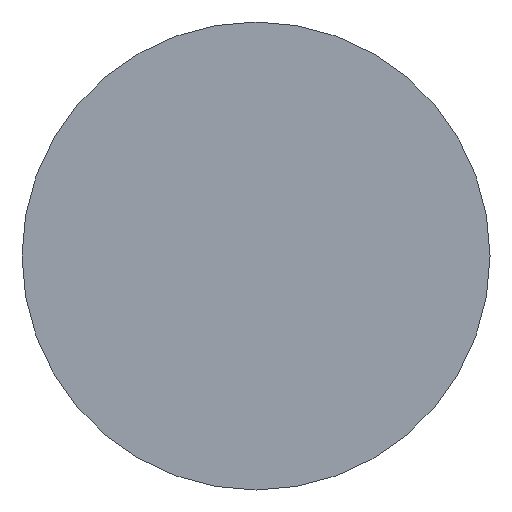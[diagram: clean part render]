
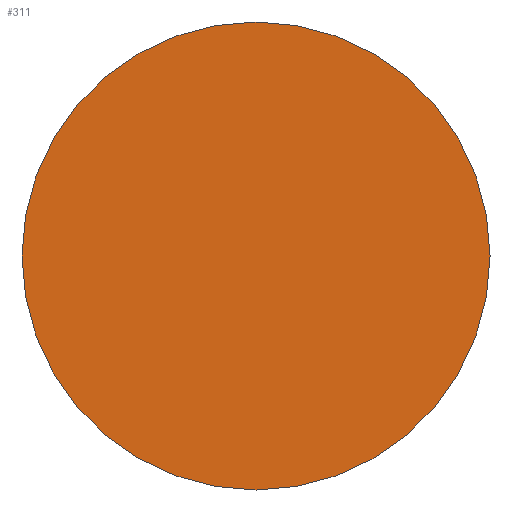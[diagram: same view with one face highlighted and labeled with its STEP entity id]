
A CAD part, front view. The second image highlights one B-rep face of the part: STEP entity #311.
In plain terms, the highlighted planar face has unit normal (0, -1, 0).
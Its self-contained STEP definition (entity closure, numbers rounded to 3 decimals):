
#10 = VERTEX_POINT ( 'NONE', #424 ) ;
#43 = DIRECTION ( 'NONE',  ( 0., 1., 0. ) ) ;
#61 = FACE_OUTER_BOUND ( 'NONE', #711, .T. ) ;
#154 = EDGE_CURVE ( 'NONE', #10, #168, #738, .T. ) ;
#163 = DIRECTION ( 'NONE',  ( 0., 0., 1. ) ) ;
#166 = ORIENTED_EDGE ( 'NONE', *, *, #154, .F. ) ;
#168 = VERTEX_POINT ( 'NONE', #684 ) ;
#175 = ORIENTED_EDGE ( 'NONE', *, *, #713, .F. ) ;
#218 = PLANE ( 'NONE',  #729 ) ;
#221 = CARTESIAN_POINT ( 'NONE',  ( 28.4, -3., 0. ) ) ;
#260 = DIRECTION ( 'NONE',  ( 0., 0., 1. ) ) ;
#291 = DIRECTION ( 'NONE',  ( 0., 1., 0. ) ) ;
#311 = ADVANCED_FACE ( 'NONE', ( #61 ), #218, .F. ) ;
#323 = DIRECTION ( 'NONE',  ( 0., 1., 0. ) ) ;
#424 = CARTESIAN_POINT ( 'NONE',  ( 0., -3., -25. ) ) ;
#433 = CARTESIAN_POINT ( 'NONE',  ( 0., -3., 0. ) ) ;
#454 = AXIS2_PLACEMENT_3D ( 'NONE', #433, #323, #508 ) ;
#499 = AXIS2_PLACEMENT_3D ( 'NONE', #769, #43, #260 ) ;
#508 = DIRECTION ( 'NONE',  ( 0., 0., 1. ) ) ;
#648 = CIRCLE ( 'NONE', #454, 25. ) ;
#684 = CARTESIAN_POINT ( 'NONE',  ( 0., -3., 25. ) ) ;
#711 = EDGE_LOOP ( 'NONE', ( #175, #166 ) ) ;
#713 = EDGE_CURVE ( 'NONE', #168, #10, #648, .T. ) ;
#729 = AXIS2_PLACEMENT_3D ( 'NONE', #221, #291, #163 ) ;
#738 = CIRCLE ( 'NONE', #499, 25. ) ;
#769 = CARTESIAN_POINT ( 'NONE',  ( 0., -3., 0. ) ) ;
